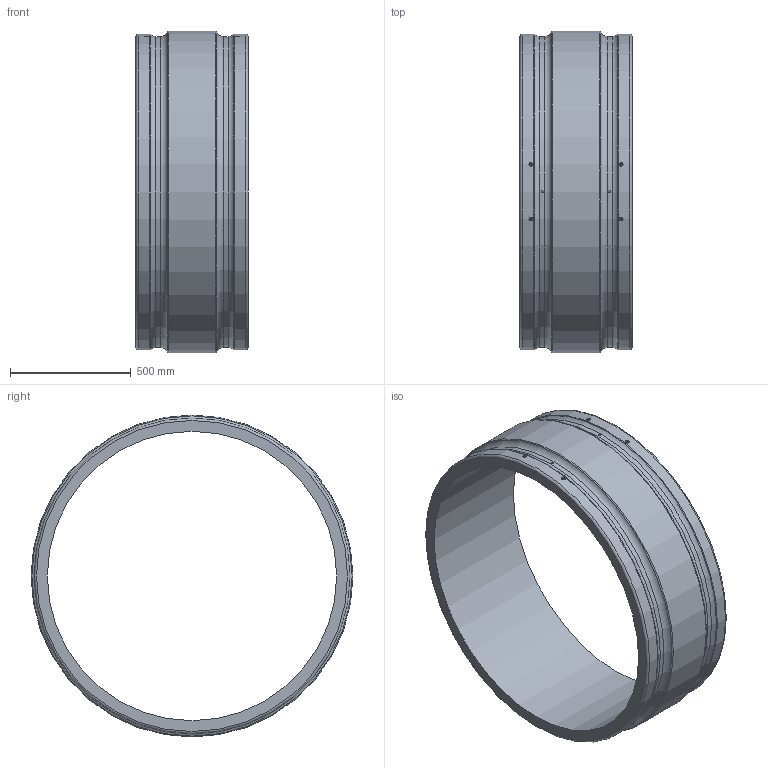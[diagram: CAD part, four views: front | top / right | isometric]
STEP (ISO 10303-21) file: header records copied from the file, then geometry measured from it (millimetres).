
FILE_DESCRIPTION(/* description */ ('Unknown'),/* implementation_level */ '2;1');
FILE_NAME(/* name */ 'MP1200A',/* time_stamp */ '2021-06-23T16:06:42+02:00',/* author */ ('Unknown'),/* organization */ ('Unknown'),/* preprocessor_version */ 'ST-DEVELOPER v16.7',/* originating_system */ 'Solid Edge',/* authorisation */ 'Unknown');
FILE_SCHEMA (('AUTOMOTIVE_DESIGN {1 0 10303 214 3 1 1}'));
Length unit declared in the file: millimetre
Products named in the file (1): MP1200A
Bounding box: 465 x 1335 x 1335 mm (x, y, z)
Volume: 107036309.5 mm3; surface area: 4177659 mm2
Topology: 1 solids, 1 shells, 42 faces, 86 edges, 54 vertices
Faces by surface type: cylinder 16, plane 12, torus 10, bspline 4
Full cylindrical faces by diameter (mm): 4 x4, 8 x2, 13 x4, 1200 x1, 1290 x2, 1310 x2, 1335 x1
Entity records: 1264 total; most frequent: CARTESIAN_POINT 555, DIRECTION 142, ORIENTED_EDGE 84, EDGE_LOOP 84, FACE_BOUND 84, AXIS2_PLACEMENT_3D 71, EDGE_CURVE 42, VERTEX_POINT 42
